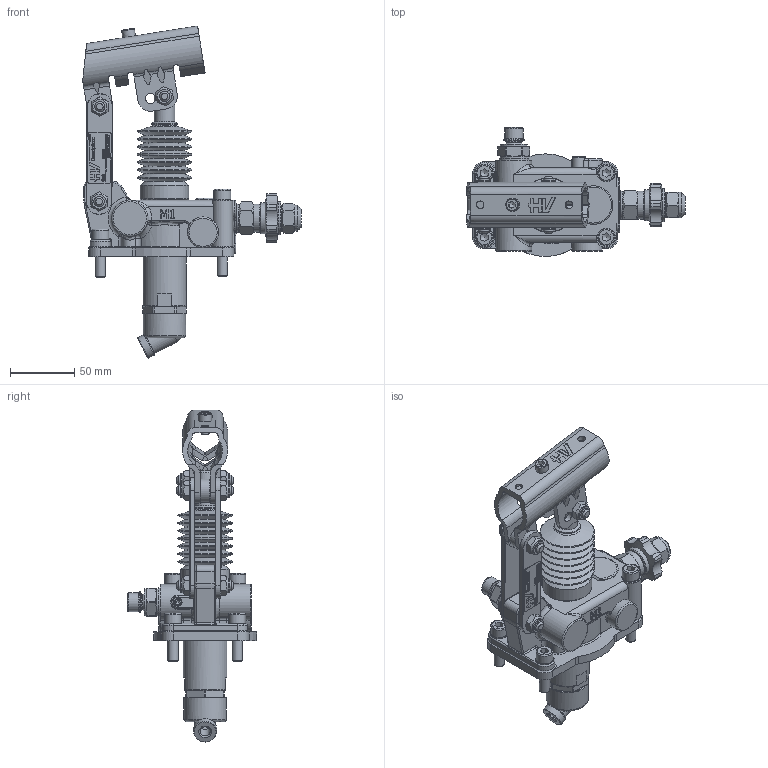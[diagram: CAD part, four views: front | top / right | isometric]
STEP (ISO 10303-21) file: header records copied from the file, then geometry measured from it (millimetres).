
FILE_DESCRIPTION((''),'2;1');
FILE_NAME('G:\HV_HYDRAULIC\AZIENDA_HV_HYDRAULIC\ARCHIVIO_DISEGNI\5_PRODOTTI_FINITI\1_POMPE_MANUALI\6067_PMSE_20\6067.0043_PMSE_20_byC-s_(HV)\6067.0043.stp','2024-03-26T07:19:27',('christian.scardovi'),(''),'Autodesk Inventor 2013','Autodesk Inventor 2013','');
FILE_SCHEMA(('AUTOMOTIVE_DESIGN { 1 0 10303 214 1 1 1 1 }'));
Length unit declared in the file: millimetre
Products named in the file (1): 6067.0043
Bounding box: 170.2 x 100.5 x 258.56 mm (x, y, z)
Volume: 472586 mm3; surface area: 120552.6 mm2
Topology: 3 solids, 3 shells, 1492 faces, 3777 edges, 2391 vertices
Faces by surface type: plane 748, cylinder 309, bspline 183, cone 147, torus 92, sphere 13
Full cylindrical faces by diameter (mm): 4.917 x6, 5 x6, 6 x5, 6.5 x1, 8 x15, 9 x2, 9.2 x1, 10 x4, 11.05 x6, 12 x4, 13 x4, 13.2 x1, 13.5 x1, 14 x4, 14.5 x1, 14.95 x4, 16 x1, 16.5 x1, 16.6 x1, 18 x3, 20 x5, 21 x2, 21.8 x2, 22 x2, 22.3 x1, 23 x3, 24 x2, 26 x1, 26.5 x1, 28 x2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
Entity records: 46792 total; most frequent: CARTESIAN_POINT 12107, ORIENTED_EDGE 6928, DIRECTION 6331, EDGE_CURVE 3464, VERTEX_POINT 2307, AXIS2_PLACEMENT_3D 2225, VECTOR 1881, LINE 1881
